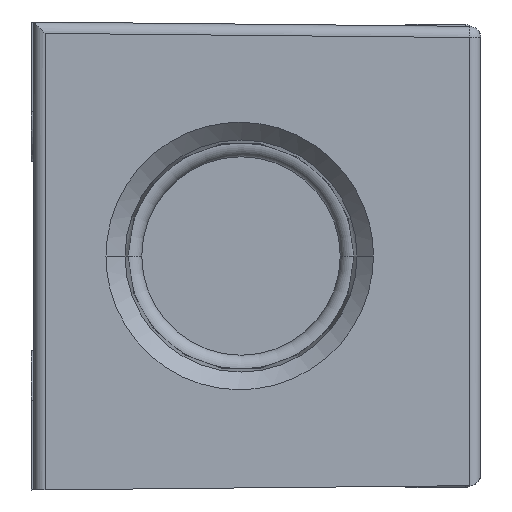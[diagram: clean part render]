
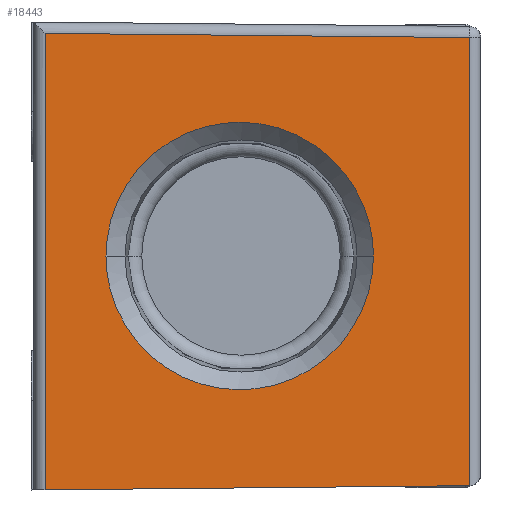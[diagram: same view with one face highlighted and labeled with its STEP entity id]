
A CAD part, front view. The second image highlights one B-rep face of the part: STEP entity #18443.
In plain terms, the highlighted planar face has unit normal (0.01, -1, 0).
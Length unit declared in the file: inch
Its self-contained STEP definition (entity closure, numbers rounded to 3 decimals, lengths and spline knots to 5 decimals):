
#3086=DIRECTION('',(0.,0.,1.));
#3087=VECTOR('',#3086,1.82891);
#3088=CARTESIAN_POINT('',(-0.79956,-3.68445,
-0.93695));
#3089=LINE('',#3088,#3087);
#3100=DIRECTION('',(-1.,-0.01,0.01));
#3101=VECTOR('',#3100,1.70017);
#3102=CARTESIAN_POINT('',(0.90044,-3.66769,
0.87519));
#3103=LINE('',#3102,#3101);
#3144=DIRECTION('',(-1.,-0.01,-0.01));
#3145=VECTOR('',#3144,1.70017);
#3146=CARTESIAN_POINT('',(0.90044,-3.66769,
-0.92019));
#3147=LINE('',#3146,#3145);
#3148=CARTESIAN_POINT('',(0.51549,-3.67149,0.));
#3149=CARTESIAN_POINT('',(0.51549,-3.67149,
-0.03157));
#3150=CARTESIAN_POINT('',(0.50988,-3.67154,
-0.09707));
#3151=CARTESIAN_POINT('',(0.48145,-3.67182,
-0.19781));
#3152=CARTESIAN_POINT('',(0.43154,-3.67231,
-0.2949));
#3153=CARTESIAN_POINT('',(0.3613,-3.67301,
-0.38156));
#3154=CARTESIAN_POINT('',(0.27463,-3.67386,
-0.45181));
#3155=CARTESIAN_POINT('',(0.19372,-3.67466,
-0.49338));
#3156=CARTESIAN_POINT('',(0.12716,-3.67531,
-0.51593));
#3157=CARTESIAN_POINT('',(0.0771,-3.67581,
-0.52763));
#3158=CARTESIAN_POINT('',(0.03591,-3.67621,
-0.53323));
#3159=CARTESIAN_POINT('',(0.00352,-3.67653,
-0.53539));
#3160=CARTESIAN_POINT('',(-0.02028,-3.67677,
-0.53592));
#3161=CARTESIAN_POINT('',(-0.04409,-3.677,
-0.53539));
#3162=CARTESIAN_POINT('',(-0.07647,-3.67732,
-0.53323));
#3163=CARTESIAN_POINT('',(-0.11767,-3.67773,
-0.52763));
#3164=CARTESIAN_POINT('',(-0.16773,-3.67822,
-0.51593));
#3165=CARTESIAN_POINT('',(-0.23429,-3.67888,
-0.49338));
#3166=CARTESIAN_POINT('',(-0.3152,-3.67968,
-0.45181));
#3167=CARTESIAN_POINT('',(-0.40187,-3.68053,
-0.38156));
#3168=CARTESIAN_POINT('',(-0.47211,-3.68122,
-0.2949));
#3169=CARTESIAN_POINT('',(-0.52201,-3.68172,
-0.19781));
#3170=CARTESIAN_POINT('',(-0.55044,-3.682,
-0.09707));
#3171=CARTESIAN_POINT('',(-0.55605,-3.68205,
-0.03157));
#3172=CARTESIAN_POINT('',(-0.55605,-3.68205,0.));
#3174=CARTESIAN_POINT('',(-0.55605,-3.68205,0.));
#3175=CARTESIAN_POINT('',(-0.55605,-3.68205,
0.03157));
#3176=CARTESIAN_POINT('',(-0.55044,-3.682,
0.09707));
#3177=CARTESIAN_POINT('',(-0.52201,-3.68172,
0.19781));
#3178=CARTESIAN_POINT('',(-0.47211,-3.68122,
0.2949));
#3179=CARTESIAN_POINT('',(-0.40187,-3.68053,
0.38156));
#3180=CARTESIAN_POINT('',(-0.3152,-3.67968,
0.45181));
#3181=CARTESIAN_POINT('',(-0.23429,-3.67888,
0.49338));
#3182=CARTESIAN_POINT('',(-0.16773,-3.67822,
0.51593));
#3183=CARTESIAN_POINT('',(-0.11767,-3.67773,
0.52763));
#3184=CARTESIAN_POINT('',(-0.07647,-3.67732,
0.53323));
#3185=CARTESIAN_POINT('',(-0.04409,-3.677,
0.53539));
#3186=CARTESIAN_POINT('',(-0.02028,-3.67677,
0.53592));
#3187=CARTESIAN_POINT('',(0.00352,-3.67653,
0.53539));
#3188=CARTESIAN_POINT('',(0.03591,-3.67621,
0.53323));
#3189=CARTESIAN_POINT('',(0.0771,-3.67581,
0.52763));
#3190=CARTESIAN_POINT('',(0.12716,-3.67531,
0.51593));
#3191=CARTESIAN_POINT('',(0.19372,-3.67466,
0.49338));
#3192=CARTESIAN_POINT('',(0.27463,-3.67386,
0.45181));
#3193=CARTESIAN_POINT('',(0.3613,-3.67301,
0.38156));
#3194=CARTESIAN_POINT('',(0.43154,-3.67231,
0.2949));
#3195=CARTESIAN_POINT('',(0.48145,-3.67182,
0.19781));
#3196=CARTESIAN_POINT('',(0.50988,-3.67154,
0.09707));
#3197=CARTESIAN_POINT('',(0.51549,-3.67149,
0.03157));
#3198=CARTESIAN_POINT('',(0.51549,-3.67149,0.));
#3204=DIRECTION('',(0.,0.,-1.));
#3205=VECTOR('',#3204,1.79538);
#3206=CARTESIAN_POINT('',(0.90044,-3.66769,
0.87519));
#3207=LINE('',#3206,#3205);
#10171=CARTESIAN_POINT('',(0.51549,-3.67149,0.));
#10172=VERTEX_POINT('',#10171);
#10173=CARTESIAN_POINT('',(-0.55605,-3.68205,0.));
#10174=VERTEX_POINT('',#10173);
#10243=CARTESIAN_POINT('',(0.90044,-3.66769,
0.87519));
#10244=CARTESIAN_POINT('',(0.90044,-3.66769,
-0.92019));
#10245=VERTEX_POINT('',#10243);
#10246=VERTEX_POINT('',#10244);
#10257=CARTESIAN_POINT('',(-0.79956,-3.68445,
0.89196));
#10258=VERTEX_POINT('',#10257);
#10263=CARTESIAN_POINT('',(-0.79956,-3.68445,
-0.93695));
#10264=VERTEX_POINT('',#10263);
#18425=CARTESIAN_POINT('',(-0.855,-3.685,-1.9922));
#18426=DIRECTION('',(0.01,-1.,0.));
#18427=DIRECTION('',(0.,0.,1.));
#18428=AXIS2_PLACEMENT_3D('',#18425,#18426,#18427);
#18429=PLANE('',#18428);
#18431=ORIENTED_EDGE('',*,*,#18430,.T.);
#18432=ORIENTED_EDGE('',*,*,#16915,.T.);
#18433=ORIENTED_EDGE('',*,*,#18404,.T.);
#18434=ORIENTED_EDGE('',*,*,#18415,.F.);
#18435=EDGE_LOOP('',(#18431,#18432,#18433,#18434));
#18436=FACE_OUTER_BOUND('',#18435,.F.);
#18438=ORIENTED_EDGE('',*,*,#18437,.F.);
#18440=ORIENTED_EDGE('',*,*,#18439,.F.);
#18441=EDGE_LOOP('',(#18438,#18440));
#18442=FACE_BOUND('',#18441,.F.);
#18443=ADVANCED_FACE('',(#18436,#18442),#18429,.T.);
#3173=B_SPLINE_CURVE_WITH_KNOTS('',3,(#3148,#3149,#3150,#3151,#3152,#3153,#3154,
#3155,#3156,#3157,#3158,#3159,#3160,#3161,#3162,#3163,#3164,#3165,#3166,#3167,
#3168,#3169,#3170,#3171,#3172),.UNSPECIFIED.,.F.,.F.,(4,1,1,1,1,1,1,1,1,1,1,1,1,
1,1,1,1,1,1,1,1,1,4),(0.,0.0625,0.125,0.1875,0.25,0.3125,0.375,
0.40625,0.4375,0.46875,0.48438,0.5,0.51563,0.53125,0.5625,
0.59375,0.625,0.6875,0.75,0.8125,0.875,0.9375,1.),
.UNSPECIFIED.);
#3199=B_SPLINE_CURVE_WITH_KNOTS('',3,(#3174,#3175,#3176,#3177,#3178,#3179,#3180,
#3181,#3182,#3183,#3184,#3185,#3186,#3187,#3188,#3189,#3190,#3191,#3192,#3193,
#3194,#3195,#3196,#3197,#3198),.UNSPECIFIED.,.F.,.F.,(4,1,1,1,1,1,1,1,1,1,1,1,1,
1,1,1,1,1,1,1,1,1,4),(0.,0.0625,0.125,0.1875,0.25,0.3125,0.375,
0.40625,0.4375,0.46875,0.48438,0.5,0.51563,0.53125,0.5625,
0.59375,0.625,0.6875,0.75,0.8125,0.875,0.9375,1.),
.UNSPECIFIED.);
#16915=EDGE_CURVE('',#10246,#10264,#3147,.T.);
#18404=EDGE_CURVE('',#10264,#10258,#3089,.T.);
#18415=EDGE_CURVE('',#10245,#10258,#3103,.T.);
#18430=EDGE_CURVE('',#10245,#10246,#3207,.T.);
#18437=EDGE_CURVE('',#10172,#10174,#3173,.T.);
#18439=EDGE_CURVE('',#10174,#10172,#3199,.T.);
